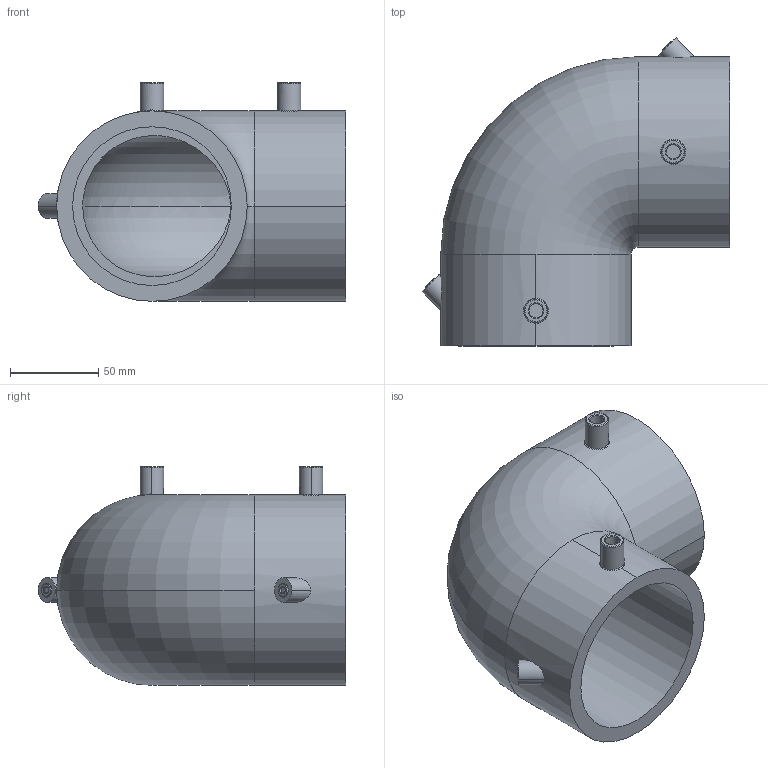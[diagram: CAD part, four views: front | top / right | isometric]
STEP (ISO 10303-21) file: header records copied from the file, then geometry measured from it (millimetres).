
FILE_DESCRIPTION (( 'STEP AP203' ), '1' );
FILE_NAME ('KP_23-90.step', '2011-08-08T11:39:06', ( '' ), ( '' ), 'SwSTEP 2.0', 'SolidWorks 2011', '' );
FILE_SCHEMA (( 'CONFIG_CONTROL_DESIGN' ));
Length unit declared in the file: millimetre
Products named in the file (1): KP_23-90
Bounding box: 174.61 x 174.61 x 124 mm (x, y, z)
Volume: 642022.2 mm3; surface area: 130046.1 mm2
Topology: 1 solids, 1 shells, 66 faces, 142 edges, 88 vertices
Faces by surface type: cylinder 28, plane 14, torus 12, cone 8, bspline 4
Entity records: 3135 total; most frequent: CARTESIAN_POINT 1603, DIRECTION 328, ORIENTED_EDGE 284, AXIS2_PLACEMENT_3D 145, EDGE_CURVE 142, VERTEX_POINT 88, CIRCLE 82, EDGE_LOOP 78
